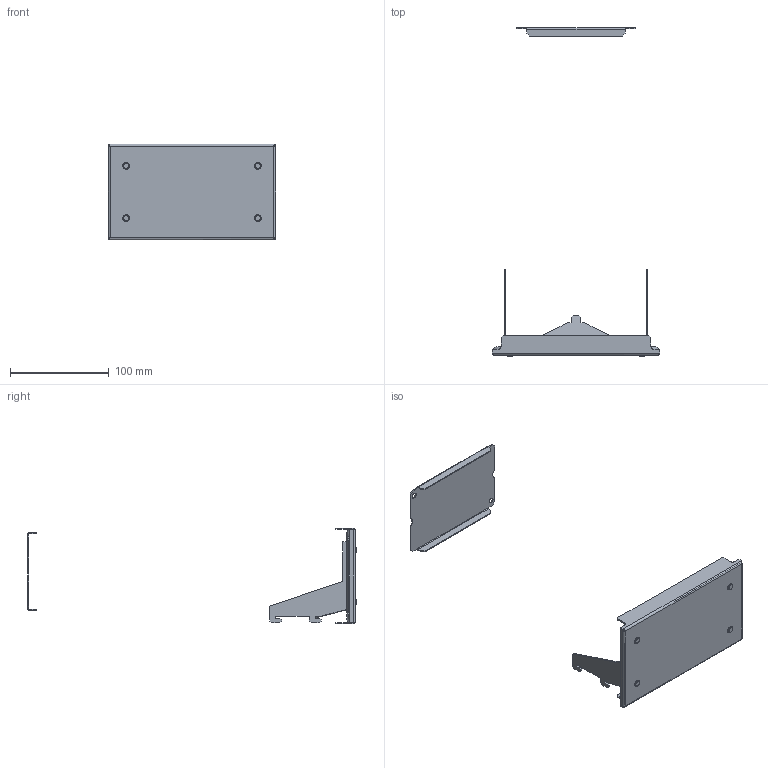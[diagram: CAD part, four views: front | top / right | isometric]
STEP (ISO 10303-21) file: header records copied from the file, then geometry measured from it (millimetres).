
FILE_DESCRIPTION(('CAx-IF Rec.Pracs.---Model Styling and Organization---1.2---2011-12-15','CAx-IF Rec.Pracs.---Geometric and Assembly Validation Properties---4.1---2014-06-16','CAx-IF Rec.Pracs.---PMI Polyline Presentation---2.0---2013-05-24'),'2;1');
FILE_NAME('R5M2W2M3BS.stp','2021-05-05T12:10:36+03:00',(''),(''),'STEP Interface 4.4 by CT CoreTechnologie','3D_Evolution4.4 by CT CoreTechnologie','');
FILE_SCHEMA(('AUTOMOTIVE_DESIGN { 1 0 10303 214 1 1 1 1 }'));
Length unit declared in the file: millimetre
Products named in the file (9): R5M2W2M3BS; 5-GOST 11371-78 (DIN 125) PA 6.6_5-GOST 11371-78 (DIN 125) PA 6.6; RB.1235.00.00.0 ÑÁ_-00; RB.1235.00.01.0_-00; PF 7x14 RAMmcc 2.0_1å3_; Ì6õ12-A5100231_straight; AC00C061_AC00C061; RB.1255.00.00.0_-00; RB.1237.00.00.0_-00
Assembly tree (11 placements, depth 3):
  R5M2W2M3BS
    5-GOST 11371-78 (DIN 125) PA 6.6_5-GOST 11371-78 (DIN 125) PA 6.6  x4
    RB.1235.00.00.0 ÑÁ_-00
      RB.1235.00.01.0_-00
      PF 7x14 RAMmcc 2.0_1å3_
      Ì6õ12-A5100231_straight
      AC00C061_AC00C061
    RB.1255.00.00.0_-00
    RB.1237.00.00.0_-00
Bounding box: 169.5 x 332 x 97 mm (x, y, z)
Surface area: 110072.9 mm2 (no closed solid volume)
Topology: 0 solids, 14 shells, 252 faces, 630 edges, 402 vertices
Faces by surface type: plane 170, cylinder 69, bspline 13
Entity records: 8118 total; most frequent: CARTESIAN_POINT 1832, ORIENTED_EDGE 1216, DIRECTION 1191, EDGE_CURVE 608, VECTOR 459, LINE 459, VERTEX_POINT 390, AXIS2_PLACEMENT_3D 366
